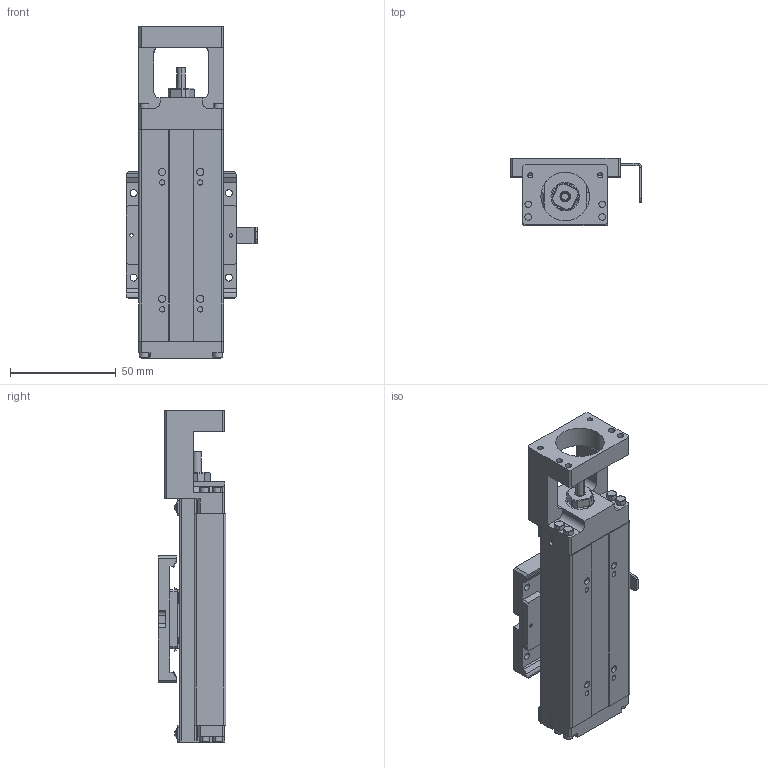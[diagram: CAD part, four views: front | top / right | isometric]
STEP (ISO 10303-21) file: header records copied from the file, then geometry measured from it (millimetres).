
FILE_DESCRIPTION (( 'STEP AP203' ), '1' );
FILE_NAME ('GKAC2040-30-12N-P2-CXXXX-網站用圖.STEP', '2023-04-19T06:56:00', ( '' ), ( '' ), 'SwSTEP 2.0', 'SolidWorks 2019', '' );
FILE_SCHEMA (( 'CONFIG_CONTROL_DESIGN' ));
Length unit declared in the file: millimetre
Products named in the file (3): Group3^GKAC2040-30-12N-P2-CXXXX_defeature-網站用圖_GMT; Group4^GKAC2040-30-12N-P2-CXXXX_defeature-網站用圖_GMT; GKAC2040-30-12N-P2-CXXXX-網站用圖
Assembly tree (2 placements, depth 2):
  GKAC2040-30-12N-P2-CXXXX-網站用圖
    Group3^GKAC2040-30-12N-P2-CXXXX_defeature-網站用圖_GMT
    Group4^GKAC2040-30-12N-P2-CXXXX_defeature-網站用圖_GMT
Bounding box: 62.2 x 32 x 157 mm (x, y, z)
Volume: 112223.4 mm3; surface area: 72250.4 mm2
Topology: 42 solids, 91 shells, 3032 faces, 7728 edges, 4807 vertices
Faces by surface type: cone 1071, cylinder 917, plane 825, torus 145, sphere 72, bspline 2
Entity records: 92607 total; most frequent: DIRECTION 17382, CARTESIAN_POINT 16801, ORIENTED_EDGE 15216, EDGE_CURVE 7608, AXIS2_PLACEMENT_3D 7052, VERTEX_POINT 4783, CIRCLE 4017, VECTOR 3278
